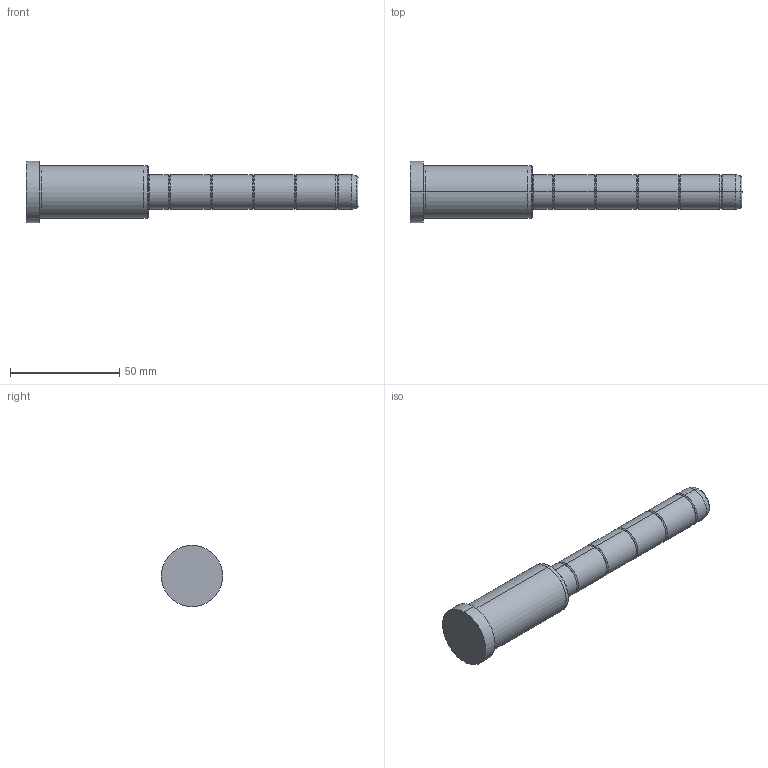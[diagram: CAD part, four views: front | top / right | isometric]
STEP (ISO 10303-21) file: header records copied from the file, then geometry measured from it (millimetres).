
FILE_DESCRIPTION( ( 'STEP AP203' ), '1' );
FILE_NAME( 'D:/Delta 3 D/D02/16/D02 - 16x56x96.step', '2003-01-04T13:09:46', ( ' ' ), ( ' ' ), 'XStep 1.0', ' ', ' ' );
FILE_SCHEMA( ( 'CONFIG_CONTROL_DESIGN' ) );
Length unit declared in the file: metre
Products named in the file (1): 1
Bounding box: 152 x 28 x 28 mm (x, y, z)
Volume: 45485.1 mm3; surface area: 10402.4 mm2
Topology: 1 solids, 1 shells, 54 faces, 106 edges, 58 vertices
Faces by surface type: bspline 30, revolution 24
Entity records: 1721 total; most frequent: CARTESIAN_POINT 717, ORIENTED_EDGE 212, DIRECTION 166, EDGE_CURVE 106, AXIS2_PLACEMENT_3D 59, EDGE_LOOP 58, VERTEX_POINT 58, CIRCLE 58
